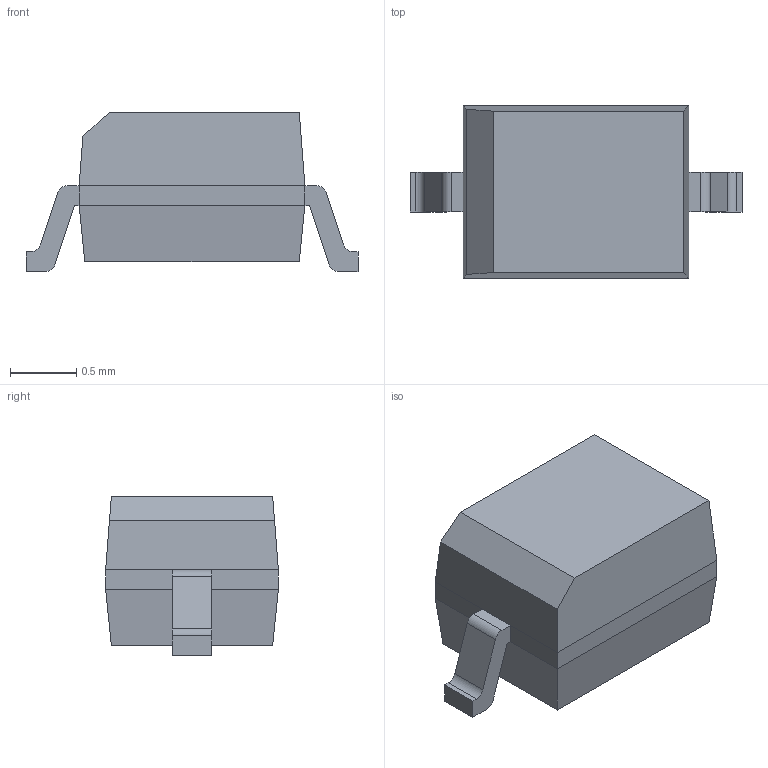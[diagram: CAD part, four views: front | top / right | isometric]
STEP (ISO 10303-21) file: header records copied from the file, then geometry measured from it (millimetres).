
FILE_DESCRIPTION(('FreeCAD Model'),'2;1');
FILE_NAME('/var/www/3D/0T/339623.1.1.stp','2020-04-08T11:26:27',( 'Author'),(''),'Open CASCADE STEP processor 6.9','FreeCAD','Unknown' );
FILE_SCHEMA(('AUTOMOTIVE_DESIGN { 1 0 10303 214 1 1 1 1 }'));
Length unit declared in the file: millimetre
Products named in the file (4): ASSEMBLY; Body; FilletPinL; FilletPinR
Assembly tree (3 placements, depth 2):
  ASSEMBLY
    Body
    FilletPinL
    FilletPinR
Bounding box: 2.5 x 1.3 x 1.2 mm (x, y, z)
Volume: 2.4 mm3; surface area: 11.9 mm2
Topology: 3 solids, 3 shells, 41 faces, 97 edges, 62 vertices
Faces by surface type: plane 35, cylinder 6
Entity records: 2526 total; most frequent: CARTESIAN_POINT 438, DIRECTION 383, LINE 263, VECTOR 263, ORIENTED_EDGE 194, PCURVE 194, DEFINITIONAL_REPRESENTATION 194, EDGE_CURVE 97
